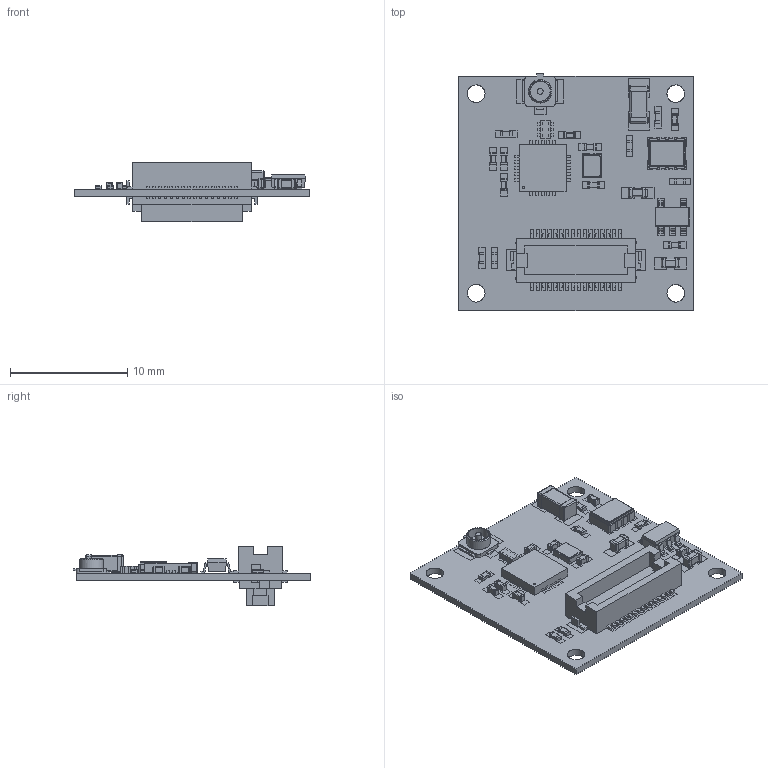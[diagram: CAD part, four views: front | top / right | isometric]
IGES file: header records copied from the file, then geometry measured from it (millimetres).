
Global section: file name: Filename.iges; native system: Open CASCADE 7.4; preprocessor: Open CASCADE IGES processor 7.4; date: 20200714.223114; units: millimetre
Bounding box: 20 x 20.25 x 5.1 mm (x, y, z)
Surface area: 2872.3 mm2 (no closed solid volume)
Topology: 0 solids, 0 shells, 4140 faces, 21140 edges, 28110 vertices
Faces by surface type: plane 3496, revolution 644
